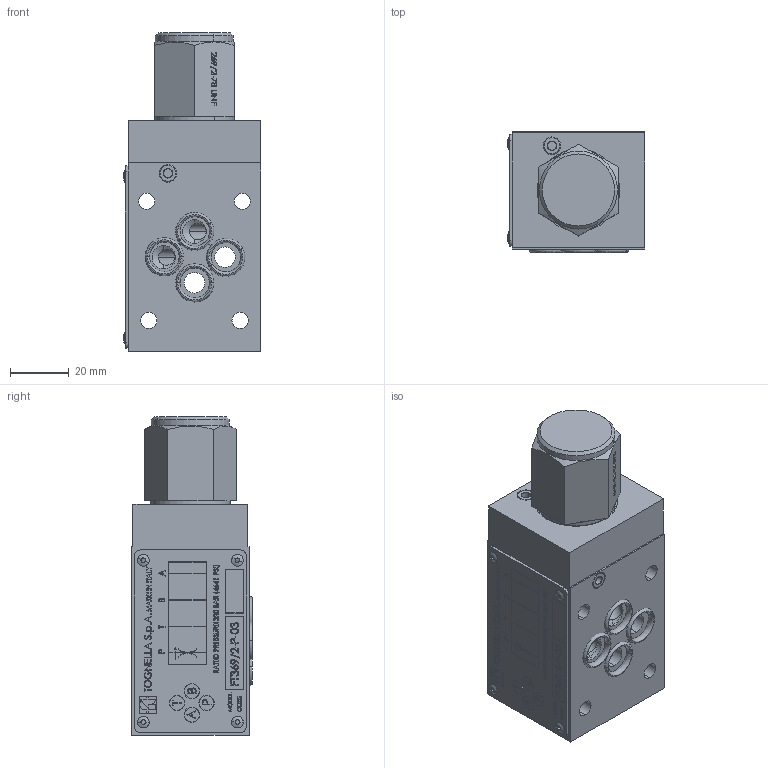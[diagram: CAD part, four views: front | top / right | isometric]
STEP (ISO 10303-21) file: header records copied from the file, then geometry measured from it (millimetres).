
FILE_DESCRIPTION (( 'STEP AP214' ), '1' );
FILE_NAME ('369-2-P-03.STEP', '2019-12-03T13:30:42', ( '' ), ( '' ), 'SwSTEP 2.0', 'SolidWorks 2018', '' );
FILE_SCHEMA (( 'AUTOMOTIVE_DESIGN' ));
Length unit declared in the file: millimetre
Products named in the file (1): 369-2-P-03
Bounding box: 46.66 x 41.12 x 108.3 mm (x, y, z)
Surface area: 29767.7 mm2 (no closed solid volume)
Topology: 0 solids, 25 shells, 782 faces, 3515 edges, 2637 vertices
Faces by surface type: plane 441, bspline 212, cylinder 89, cone 32, sphere 8
Entity records: 61675 total; most frequent: CARTESIAN_POINT 27693, ORIENTED_EDGE 4976, DIRECTION 4022, EDGE_CURVE 3513, VERTEX_POINT 2637, VECTOR 2334, LINE 2334, EDGE_LOOP 982
